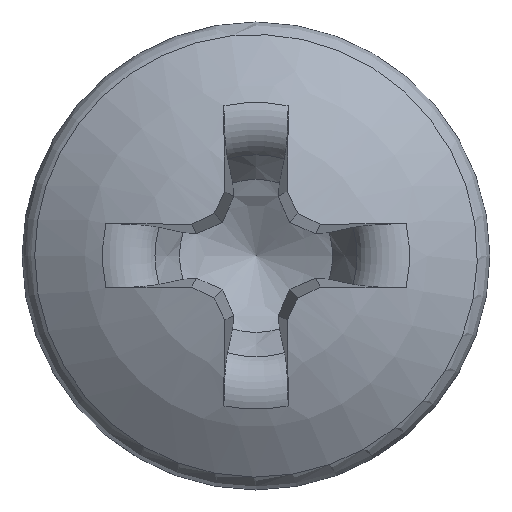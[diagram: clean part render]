
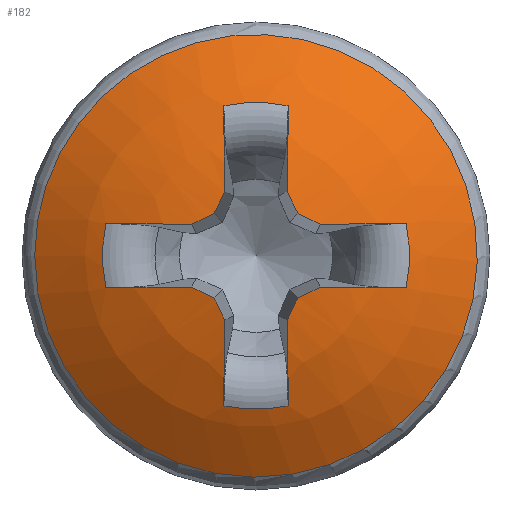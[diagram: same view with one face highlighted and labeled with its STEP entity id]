
A CAD part, top view. The second image highlights one B-rep face of the part: STEP entity #182.
In plain terms, the highlighted spherical face has radius 5.559 mm.
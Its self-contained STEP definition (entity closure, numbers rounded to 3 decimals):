
#153=SPHERICAL_SURFACE('',#1077,5.56);
#164=FACE_BOUND('',#309,.T.);
#165=FACE_BOUND('',#310,.T.);
#182=ADVANCED_FACE('',(#164,#165),#153,.T.);
#309=EDGE_LOOP('',(#433));
#310=EDGE_LOOP('',(#434,#435,#436,#437,#438,#439,#440,#441,#442,#443,#444,
#445,#446,#447,#448,#449,#450,#451,#452,#453));
#381=CIRCLE('',#1056,3.311);
#382=CIRCLE('',#1057,5.559);
#383=CIRCLE('',#1058,2.296);
#384=CIRCLE('',#1059,5.559);
#385=CIRCLE('',#1060,5.552);
#386=CIRCLE('',#1061,5.552);
#387=CIRCLE('',#1062,5.559);
#388=CIRCLE('',#1063,2.296);
#389=CIRCLE('',#1064,5.559);
#390=CIRCLE('',#1065,5.552);
#391=CIRCLE('',#1066,5.552);
#392=CIRCLE('',#1067,5.559);
#393=CIRCLE('',#1068,2.296);
#394=CIRCLE('',#1069,5.559);
#395=CIRCLE('',#1070,5.552);
#396=CIRCLE('',#1071,5.552);
#397=CIRCLE('',#1072,5.559);
#398=CIRCLE('',#1073,2.296);
#399=CIRCLE('',#1074,5.559);
#400=CIRCLE('',#1075,5.552);
#401=CIRCLE('',#1076,5.552);
#433=ORIENTED_EDGE('',*,*,#835,.T.);
#434=ORIENTED_EDGE('',*,*,#836,.F.);
#435=ORIENTED_EDGE('',*,*,#837,.T.);
#436=ORIENTED_EDGE('',*,*,#838,.F.);
#437=ORIENTED_EDGE('',*,*,#839,.F.);
#438=ORIENTED_EDGE('',*,*,#840,.F.);
#439=ORIENTED_EDGE('',*,*,#841,.F.);
#440=ORIENTED_EDGE('',*,*,#842,.T.);
#441=ORIENTED_EDGE('',*,*,#843,.F.);
#442=ORIENTED_EDGE('',*,*,#844,.F.);
#443=ORIENTED_EDGE('',*,*,#845,.F.);
#444=ORIENTED_EDGE('',*,*,#846,.F.);
#445=ORIENTED_EDGE('',*,*,#847,.T.);
#446=ORIENTED_EDGE('',*,*,#848,.F.);
#447=ORIENTED_EDGE('',*,*,#849,.F.);
#448=ORIENTED_EDGE('',*,*,#850,.F.);
#449=ORIENTED_EDGE('',*,*,#851,.F.);
#450=ORIENTED_EDGE('',*,*,#852,.T.);
#451=ORIENTED_EDGE('',*,*,#853,.F.);
#452=ORIENTED_EDGE('',*,*,#854,.F.);
#453=ORIENTED_EDGE('',*,*,#855,.F.);
#735=VERTEX_POINT('',#1601);
#736=VERTEX_POINT('',#1603);
#737=VERTEX_POINT('',#1604);
#738=VERTEX_POINT('',#1606);
#739=VERTEX_POINT('',#1608);
#740=VERTEX_POINT('',#1610);
#741=VERTEX_POINT('',#1612);
#742=VERTEX_POINT('',#1614);
#743=VERTEX_POINT('',#1616);
#744=VERTEX_POINT('',#1618);
#745=VERTEX_POINT('',#1620);
#746=VERTEX_POINT('',#1622);
#747=VERTEX_POINT('',#1624);
#748=VERTEX_POINT('',#1626);
#749=VERTEX_POINT('',#1628);
#750=VERTEX_POINT('',#1630);
#751=VERTEX_POINT('',#1632);
#752=VERTEX_POINT('',#1634);
#753=VERTEX_POINT('',#1636);
#754=VERTEX_POINT('',#1638);
#755=VERTEX_POINT('',#1640);
#835=EDGE_CURVE('',#735,#735,#381,.T.);
#836=EDGE_CURVE('',#736,#737,#382,.T.);
#837=EDGE_CURVE('',#736,#738,#383,.T.);
#838=EDGE_CURVE('',#739,#738,#384,.T.);
#839=EDGE_CURVE('',#740,#739,#385,.T.);
#840=EDGE_CURVE('',#741,#740,#386,.T.);
#841=EDGE_CURVE('',#742,#741,#387,.T.);
#842=EDGE_CURVE('',#742,#743,#388,.T.);
#843=EDGE_CURVE('',#744,#743,#389,.T.);
#844=EDGE_CURVE('',#745,#744,#390,.T.);
#845=EDGE_CURVE('',#746,#745,#391,.T.);
#846=EDGE_CURVE('',#747,#746,#392,.T.);
#847=EDGE_CURVE('',#747,#748,#393,.T.);
#848=EDGE_CURVE('',#749,#748,#394,.T.);
#849=EDGE_CURVE('',#750,#749,#395,.T.);
#850=EDGE_CURVE('',#751,#750,#396,.T.);
#851=EDGE_CURVE('',#752,#751,#397,.T.);
#852=EDGE_CURVE('',#752,#753,#398,.T.);
#853=EDGE_CURVE('',#754,#753,#399,.T.);
#854=EDGE_CURVE('',#755,#754,#400,.T.);
#855=EDGE_CURVE('',#737,#755,#401,.T.);
#1056=AXIS2_PLACEMENT_3D('',#1600,#1139,#1140);
#1057=AXIS2_PLACEMENT_3D('',#1602,#1141,#1142);
#1058=AXIS2_PLACEMENT_3D('',#1605,#1143,#1144);
#1059=AXIS2_PLACEMENT_3D('',#1607,#1145,#1146);
#1060=AXIS2_PLACEMENT_3D('',#1609,#1147,#1148);
#1061=AXIS2_PLACEMENT_3D('',#1611,#1149,#1150);
#1062=AXIS2_PLACEMENT_3D('',#1613,#1151,#1152);
#1063=AXIS2_PLACEMENT_3D('',#1615,#1153,#1154);
#1064=AXIS2_PLACEMENT_3D('',#1617,#1155,#1156);
#1065=AXIS2_PLACEMENT_3D('',#1619,#1157,#1158);
#1066=AXIS2_PLACEMENT_3D('',#1621,#1159,#1160);
#1067=AXIS2_PLACEMENT_3D('',#1623,#1161,#1162);
#1068=AXIS2_PLACEMENT_3D('',#1625,#1163,#1164);
#1069=AXIS2_PLACEMENT_3D('',#1627,#1165,#1166);
#1070=AXIS2_PLACEMENT_3D('',#1629,#1167,#1168);
#1071=AXIS2_PLACEMENT_3D('',#1631,#1169,#1170);
#1072=AXIS2_PLACEMENT_3D('',#1633,#1171,#1172);
#1073=AXIS2_PLACEMENT_3D('',#1635,#1173,#1174);
#1074=AXIS2_PLACEMENT_3D('',#1637,#1175,#1176);
#1075=AXIS2_PLACEMENT_3D('',#1639,#1177,#1178);
#1076=AXIS2_PLACEMENT_3D('',#1641,#1179,#1180);
#1077=AXIS2_PLACEMENT_3D('',#1642,#1181,#1182);
#1139=DIRECTION('',(0.,0.,1.));
#1140=DIRECTION('',(-1.,0.,0.));
#1141=DIRECTION('',(-0.996,-0.035,0.087));
#1142=DIRECTION('',(0.087,0.,0.996));
#1143=DIRECTION('',(0.,0.,-1.));
#1144=DIRECTION('',(-1.,0.,0.));
#1145=DIRECTION('',(0.996,-0.035,0.087));
#1146=DIRECTION('',(0.087,0.,-0.996));
#1147=DIRECTION('',(0.902,0.42,0.1));
#1148=DIRECTION('',(-0.423,0.906,0.));
#1149=DIRECTION('',(0.42,0.902,0.1));
#1150=DIRECTION('',(-0.906,0.423,0.));
#1151=DIRECTION('',(-0.035,0.996,0.087));
#1152=DIRECTION('',(0.,-0.087,0.996));
#1153=DIRECTION('',(0.,0.,-1.));
#1154=DIRECTION('',(-1.,0.,0.));
#1155=DIRECTION('',(-0.035,-0.996,0.087));
#1156=DIRECTION('',(0.,-0.087,-0.996));
#1157=DIRECTION('',(0.42,-0.902,0.1));
#1158=DIRECTION('',(0.906,0.423,0.));
#1159=DIRECTION('',(0.902,-0.42,0.1));
#1160=DIRECTION('',(0.423,0.906,0.));
#1161=DIRECTION('',(0.996,0.035,0.087));
#1162=DIRECTION('',(0.087,0.,-0.996));
#1163=DIRECTION('',(0.,0.,-1.));
#1164=DIRECTION('',(-1.,0.,0.));
#1165=DIRECTION('',(-0.996,0.035,0.087));
#1166=DIRECTION('',(0.087,0.,0.996));
#1167=DIRECTION('',(-0.902,-0.42,0.1));
#1168=DIRECTION('',(0.423,-0.906,0.));
#1169=DIRECTION('',(-0.42,-0.902,0.1));
#1170=DIRECTION('',(0.906,-0.423,0.));
#1171=DIRECTION('',(0.035,-0.996,0.087));
#1172=DIRECTION('',(0.,-0.087,-0.996));
#1173=DIRECTION('',(0.,0.,-1.));
#1174=DIRECTION('',(-1.,0.,0.));
#1175=DIRECTION('',(0.035,0.996,0.087));
#1176=DIRECTION('',(0.,-0.087,0.996));
#1177=DIRECTION('',(-0.42,0.902,0.1));
#1178=DIRECTION('',(-0.906,-0.423,0.));
#1179=DIRECTION('',(-0.902,0.42,0.1));
#1180=DIRECTION('',(-0.423,-0.906,0.));
#1181=DIRECTION('',(0.,0.,1.));
#1182=DIRECTION('',(0.,1.,0.));
#1600=CARTESIAN_POINT('',(0.,0.,2.006));
#1601=CARTESIAN_POINT('',(-3.311,0.,2.006));
#1602=CARTESIAN_POINT('',(-0.042,-0.001,-2.456));
#1603=CARTESIAN_POINT('',(0.479,-2.246,2.604));
#1604=CARTESIAN_POINT('',(0.469,-0.964,2.996));
#1605=CARTESIAN_POINT('',(0.,0.,2.604));
#1606=CARTESIAN_POINT('',(-0.479,-2.246,2.604));
#1607=CARTESIAN_POINT('',(0.042,-0.001,-2.456));
#1608=CARTESIAN_POINT('',(-0.469,-0.964,2.996));
#1609=CARTESIAN_POINT('',(-0.254,-0.118,-2.488));
#1610=CARTESIAN_POINT('',(-0.629,-0.629,3.028));
#1611=CARTESIAN_POINT('',(-0.118,-0.254,-2.488));
#1612=CARTESIAN_POINT('',(-0.964,-0.469,2.996));
#1613=CARTESIAN_POINT('',(-0.001,0.042,-2.456));
#1614=CARTESIAN_POINT('',(-2.246,-0.479,2.604));
#1615=CARTESIAN_POINT('',(0.,0.,2.604));
#1616=CARTESIAN_POINT('',(-2.246,0.479,2.604));
#1617=CARTESIAN_POINT('',(-0.001,-0.042,-2.456));
#1618=CARTESIAN_POINT('',(-0.964,0.469,2.996));
#1619=CARTESIAN_POINT('',(-0.118,0.254,-2.488));
#1620=CARTESIAN_POINT('',(-0.629,0.629,3.028));
#1621=CARTESIAN_POINT('',(-0.254,0.118,-2.488));
#1622=CARTESIAN_POINT('',(-0.469,0.964,2.996));
#1623=CARTESIAN_POINT('',(0.042,0.001,-2.456));
#1624=CARTESIAN_POINT('',(-0.479,2.246,2.604));
#1625=CARTESIAN_POINT('',(0.,0.,2.604));
#1626=CARTESIAN_POINT('',(0.479,2.246,2.604));
#1627=CARTESIAN_POINT('',(-0.042,0.001,-2.456));
#1628=CARTESIAN_POINT('',(0.469,0.964,2.996));
#1629=CARTESIAN_POINT('',(0.254,0.118,-2.488));
#1630=CARTESIAN_POINT('',(0.629,0.629,3.028));
#1631=CARTESIAN_POINT('',(0.118,0.254,-2.488));
#1632=CARTESIAN_POINT('',(0.964,0.469,2.996));
#1633=CARTESIAN_POINT('',(0.001,-0.042,-2.456));
#1634=CARTESIAN_POINT('',(2.246,0.479,2.604));
#1635=CARTESIAN_POINT('',(0.,0.,2.604));
#1636=CARTESIAN_POINT('',(2.246,-0.479,2.604));
#1637=CARTESIAN_POINT('',(0.001,0.042,-2.456));
#1638=CARTESIAN_POINT('',(0.964,-0.469,2.996));
#1639=CARTESIAN_POINT('',(0.118,-0.254,-2.488));
#1640=CARTESIAN_POINT('',(0.629,-0.629,3.028));
#1641=CARTESIAN_POINT('',(0.254,-0.118,-2.488));
#1642=CARTESIAN_POINT('',(0.,0.,-2.46));
